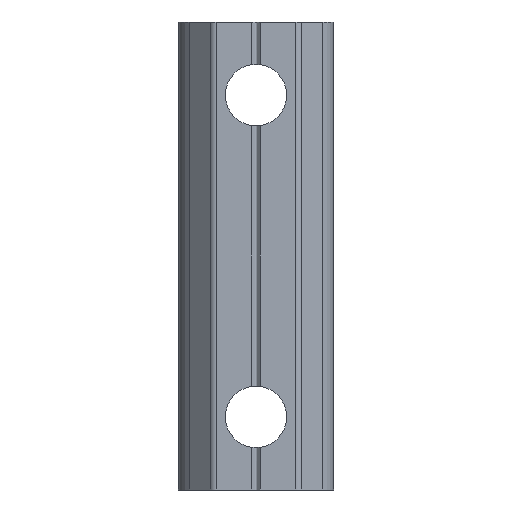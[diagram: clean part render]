
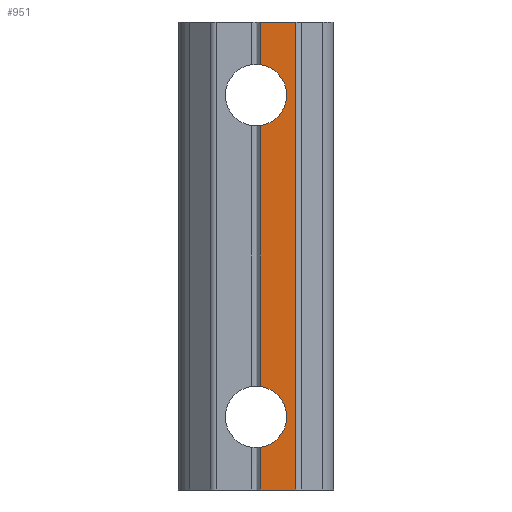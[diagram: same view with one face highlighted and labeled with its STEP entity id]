
A CAD part, front view. The second image highlights one B-rep face of the part: STEP entity #951.
In plain terms, the highlighted planar face has unit normal (0, -1, 0).
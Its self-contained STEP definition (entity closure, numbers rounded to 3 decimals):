
#37 = DIRECTION ( 'NONE',  ( 0., -1., 0. ) ) ;
#42 = VECTOR ( 'NONE', #928, 1000. ) ;
#51 = DIRECTION ( 'NONE',  ( 0., 0., -1. ) ) ;
#74 = VECTOR ( 'NONE', #1305, 1000. ) ;
#78 = CARTESIAN_POINT ( 'NONE',  ( -2.936, 0., -16. ) ) ;
#91 = EDGE_CURVE ( 'NONE', #1222, #1396, #1435, .T. ) ;
#103 = VECTOR ( 'NONE', #51, 1000. ) ;
#118 = CARTESIAN_POINT ( 'NONE',  ( 0.291, 0., -8.92 ) ) ;
#142 = ORIENTED_EDGE ( 'NONE', *, *, #1274, .T. ) ;
#146 = LINE ( 'NONE', #447, #103 ) ;
#161 = DIRECTION ( 'NONE',  ( 0., -1., 0. ) ) ;
#163 = ORIENTED_EDGE ( 'NONE', *, *, #705, .T. ) ;
#187 = ORIENTED_EDGE ( 'NONE', *, *, #1572, .T. ) ;
#251 = VERTEX_POINT ( 'NONE', #1457 ) ;
#302 = ORIENTED_EDGE ( 'NONE', *, *, #91, .F. ) ;
#304 = EDGE_LOOP ( 'NONE', ( #661, #142, #302, #187, #1859, #499, #1542, #163 ) ) ;
#308 = VERTEX_POINT ( 'NONE', #1425 ) ;
#314 = CARTESIAN_POINT ( 'NONE',  ( 0.291, 0., -13.08 ) ) ;
#331 = CARTESIAN_POINT ( 'NONE',  ( 0., 0., -11. ) ) ;
#351 = VECTOR ( 'NONE', #418, 1000. ) ;
#352 = DIRECTION ( 'NONE',  ( 0., -1., 0. ) ) ;
#418 = DIRECTION ( 'NONE',  ( 1., 0., 0. ) ) ;
#447 = CARTESIAN_POINT ( 'NONE',  ( 0.291, 0., 16. ) ) ;
#499 = ORIENTED_EDGE ( 'NONE', *, *, #651, .T. ) ;
#509 = CARTESIAN_POINT ( 'NONE',  ( 0.291, 0., 16. ) ) ;
#537 = CARTESIAN_POINT ( 'NONE',  ( -2.936, 0., -16. ) ) ;
#539 = EDGE_CURVE ( 'NONE', #308, #251, #1698, .T. ) ;
#649 = CARTESIAN_POINT ( 'NONE',  ( 2.728, 0., 16. ) ) ;
#651 = EDGE_CURVE ( 'NONE', #308, #1149, #146, .T. ) ;
#661 = ORIENTED_EDGE ( 'NONE', *, *, #779, .T. ) ;
#678 = CARTESIAN_POINT ( 'NONE',  ( 2.728, 0., -16. ) ) ;
#705 = EDGE_CURVE ( 'NONE', #849, #1127, #1144, .T. ) ;
#748 = AXIS2_PLACEMENT_3D ( 'NONE', #78, #161, #1874 ) ;
#779 = EDGE_CURVE ( 'NONE', #1127, #1059, #1467, .T. ) ;
#783 = DIRECTION ( 'NONE',  ( 0., 0., -1. ) ) ;
#830 = PLANE ( 'NONE',  #748 ) ;
#849 = VERTEX_POINT ( 'NONE', #314 ) ;
#920 = CARTESIAN_POINT ( 'NONE',  ( 0.291, 0., 16. ) ) ;
#928 = DIRECTION ( 'NONE',  ( 0., 0., -1. ) ) ;
#951 = ADVANCED_FACE ( 'NONE', ( #1520 ), #830, .T. ) ;
#1059 = VERTEX_POINT ( 'NONE', #678 ) ;
#1127 = VERTEX_POINT ( 'NONE', #1754 ) ;
#1144 = LINE ( 'NONE', #920, #42 ) ;
#1149 = VERTEX_POINT ( 'NONE', #118 ) ;
#1170 = CIRCLE ( 'NONE', #1772, 2.1 ) ;
#1222 = VERTEX_POINT ( 'NONE', #1742 ) ;
#1232 = AXIS2_PLACEMENT_3D ( 'NONE', #1381, #352, #1344 ) ;
#1274 = EDGE_CURVE ( 'NONE', #1059, #1396, #1626, .T. ) ;
#1305 = DIRECTION ( 'NONE',  ( 0., 0., 1. ) ) ;
#1344 = DIRECTION ( 'NONE',  ( 0., 0., -1. ) ) ;
#1381 = CARTESIAN_POINT ( 'NONE',  ( 0., 0., 11. ) ) ;
#1396 = VERTEX_POINT ( 'NONE', #649 ) ;
#1425 = CARTESIAN_POINT ( 'NONE',  ( 0.291, 0., 8.92 ) ) ;
#1426 = DIRECTION ( 'NONE',  ( 1., 0., 0. ) ) ;
#1435 = LINE ( 'NONE', #1649, #1689 ) ;
#1457 = CARTESIAN_POINT ( 'NONE',  ( 0.291, 0., 13.08 ) ) ;
#1460 = DIRECTION ( 'NONE',  ( 0., 0., -1. ) ) ;
#1467 = LINE ( 'NONE', #537, #351 ) ;
#1501 = EDGE_CURVE ( 'NONE', #849, #1149, #1170, .T. ) ;
#1520 = FACE_OUTER_BOUND ( 'NONE', #304, .T. ) ;
#1542 = ORIENTED_EDGE ( 'NONE', *, *, #1501, .F. ) ;
#1572 = EDGE_CURVE ( 'NONE', #1222, #251, #1871, .T. ) ;
#1609 = CARTESIAN_POINT ( 'NONE',  ( 2.728, 0., -16. ) ) ;
#1626 = LINE ( 'NONE', #1609, #74 ) ;
#1649 = CARTESIAN_POINT ( 'NONE',  ( -2.936, 0., 16. ) ) ;
#1689 = VECTOR ( 'NONE', #1426, 1000. ) ;
#1698 = CIRCLE ( 'NONE', #1232, 2.1 ) ;
#1742 = CARTESIAN_POINT ( 'NONE',  ( 0.291, 0., 16. ) ) ;
#1754 = CARTESIAN_POINT ( 'NONE',  ( 0.291, 0., -16. ) ) ;
#1772 = AXIS2_PLACEMENT_3D ( 'NONE', #331, #37, #783 ) ;
#1778 = VECTOR ( 'NONE', #1460, 1000. ) ;
#1859 = ORIENTED_EDGE ( 'NONE', *, *, #539, .F. ) ;
#1871 = LINE ( 'NONE', #509, #1778 ) ;
#1874 = DIRECTION ( 'NONE',  ( 0., 0., -1. ) ) ;
